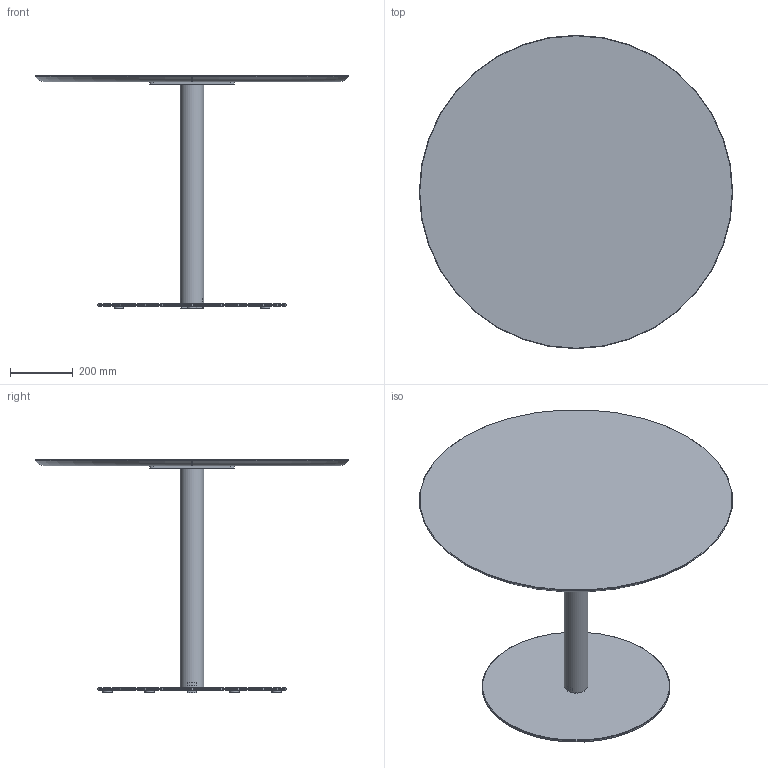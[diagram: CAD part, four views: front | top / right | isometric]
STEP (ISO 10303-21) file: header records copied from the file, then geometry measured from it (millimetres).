
FILE_DESCRIPTION( ('This file contains a STEP AP42 implementation' ,'as created by ZW3D STEP Interface translator.') ,'2;1' );
FILE_NAME( 'Henri - B_Rond - F1 - M3 - 900 x 900 x 750.stp' ,'24 912.151259', (''), ('ZWCAD Software Co.'), 'Version 1.0', 'ZW3D to STEP translator', '' );
FILE_SCHEMA(('AUTOMOTIVE_DESIGN { 1 0 10303 214 1 1 1 1 }'));
Length unit declared in the file: millimetre
Products named in the file (15): 0; PIED BISTROT PARAMETRIQUE_; COLONNE ACIER Ø76 V.02_; TUB-D076-02_; PLA-R76B-01_; CROIX ACIER 370 V.02_; CRX-X370-02_; SOCLE ACIER C Ø600 V.02_; SCL-D600-02_; PLA-R30A-01_; PLA-R30A-01; WUERTH 0276063020 Euro-screw 6.3x2 Verzinkt_; PLATEAU BISTROT PARAMETRIQUE_; insert_m6_13_; insert_m6_13
Assembly tree (24 placements, depth 3):
  0
  PIED BISTROT PARAMETRIQUE_
    COLONNE ACIER Ø76 V.02_
      TUB-D076-02_
      PLA-R76B-01_  x2
    CROIX ACIER 370 V.02_
      CRX-X370-02_
    SOCLE ACIER C Ø600 V.02_
      SCL-D600-02_
      PLA-R30A-01_
      PLA-R30A-01  x5
    WUERTH 0276063020 Euro-screw 6.3x2 Verzinkt_
    PLATEAU BISTROT PARAMETRIQUE_
      insert_m6_13_  x2
      insert_m6_13  x6
Bounding box: 1000 x 1000 x 744 mm (x, y, z)
Volume: 18444912 mm3; surface area: 2701269.5 mm2
Topology: 21 solids, 21 shells, 524 faces, 1273 edges, 802 vertices
Faces by surface type: plane 250, bspline 121, cylinder 103, cone 45, torus 5
Full cylindrical faces by diameter (mm): 4.88 x1, 6 x8, 6.3 x1, 8 x47, 12 x2, 14 x2, 30 x6, 72 x1, 76 x1, 600 x1
Entity records: 12786 total; most frequent: CARTESIAN_POINT 3716, ORIENTED_EDGE 1660, DIRECTION 1537, EDGE_CURVE 830, VERTEX_POINT 530, AXIS2_PLACEMENT_3D 515, VECTOR 507, LINE 507
